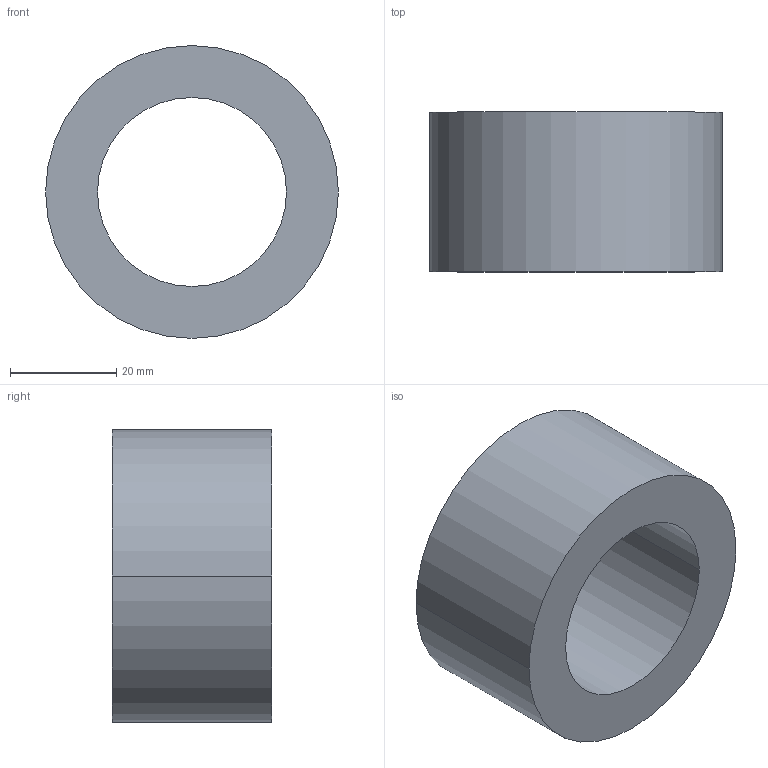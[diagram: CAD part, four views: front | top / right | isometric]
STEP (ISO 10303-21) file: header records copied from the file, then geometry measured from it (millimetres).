
FILE_DESCRIPTION (( 'STEP AP203' ), '1' );
FILE_NAME ('30800.WPP55L35.5.step', '2019-01-23T22:53:39', ( '' ), ( '' ), 'SwSTEP 2.0', 'SolidWorks 2017', '' );
FILE_SCHEMA (( 'CONFIG_CONTROL_DESIGN' ));
Length unit declared in the file: millimetre
Products named in the file (1): 30800.WPP55L35.5
Bounding box: 55 x 30 x 55 mm (x, y, z)
Volume: 41274.8 mm3; surface area: 11139.4 mm2
Topology: 1 solids, 1 shells, 8 faces, 16 edges, 10 vertices
Faces by surface type: cylinder 4, torus 2, plane 2
Entity records: 297 total; most frequent: DIRECTION 46, CARTESIAN_POINT 35, ORIENTED_EDGE 32, AXIS2_PLACEMENT_3D 21, EDGE_CURVE 16, CIRCLE 12, VERTEX_POINT 10, EDGE_LOOP 10
